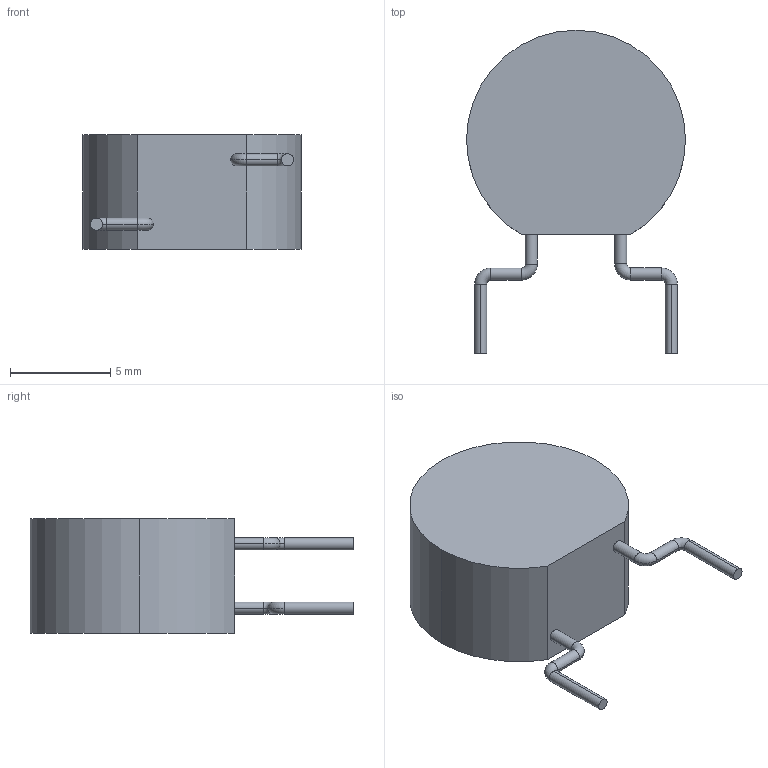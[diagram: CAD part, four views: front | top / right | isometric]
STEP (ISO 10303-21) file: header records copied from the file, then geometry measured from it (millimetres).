
FILE_DESCRIPTION (( 'STEP AP214' ), '1' );
FILE_NAME ( 'CAPRBO950W81L1090T570H1410.STEP', '2021-10-06T06:49:12', ( '' ), ( '' ), '', '©2017 PCB Libraries, Inc.', '' );
FILE_SCHEMA (( 'AUTOMOTIVE_DESIGN' ));
Length unit declared in the file: millimetre
Products named in the file (1): CAPRBO950W81L1090T570H1410
Bounding box: 10.9 x 16.1 x 5.7 mm (x, y, z)
Volume: 521.1 mm3; surface area: 406.4 mm2
Topology: 3 solids, 3 shells, 30 faces, 60 edges, 36 vertices
Faces by surface type: cylinder 15, torus 8, plane 7
Entity records: 928 total; most frequent: DIRECTION 164, CARTESIAN_POINT 127, ORIENTED_EDGE 120, AXIS2_PLACEMENT_3D 73, EDGE_CURVE 60, CIRCLE 42, VERTEX_POINT 36, STYLED_ITEM 34
